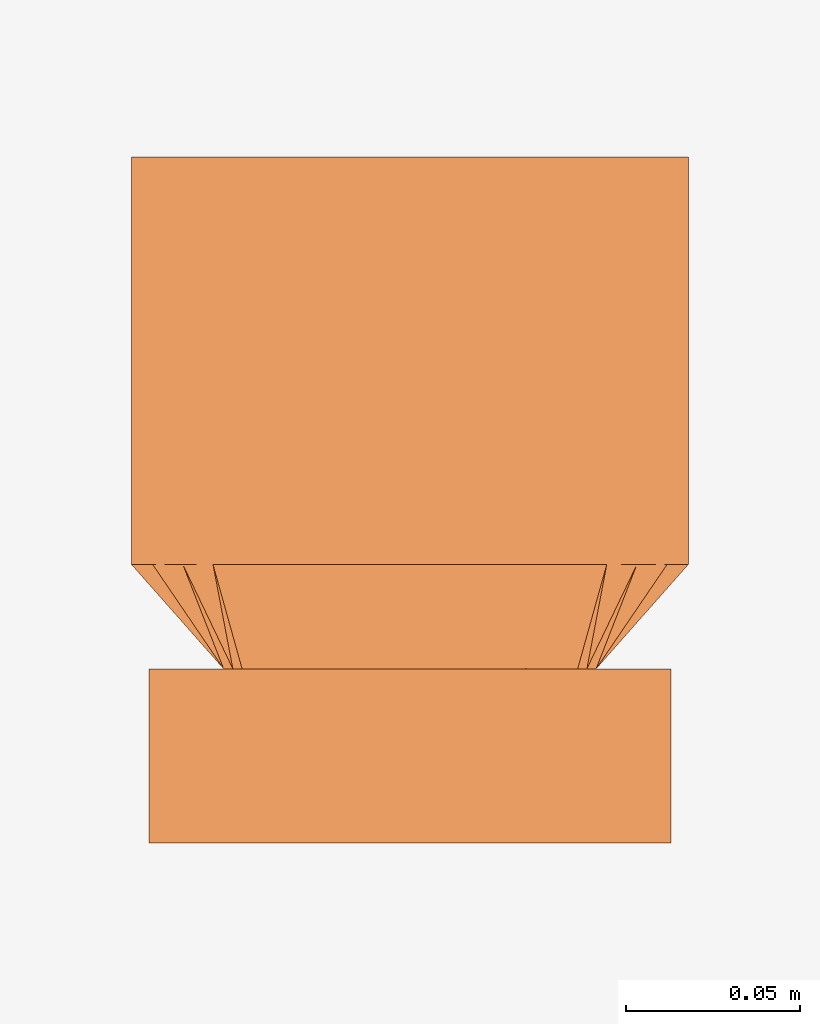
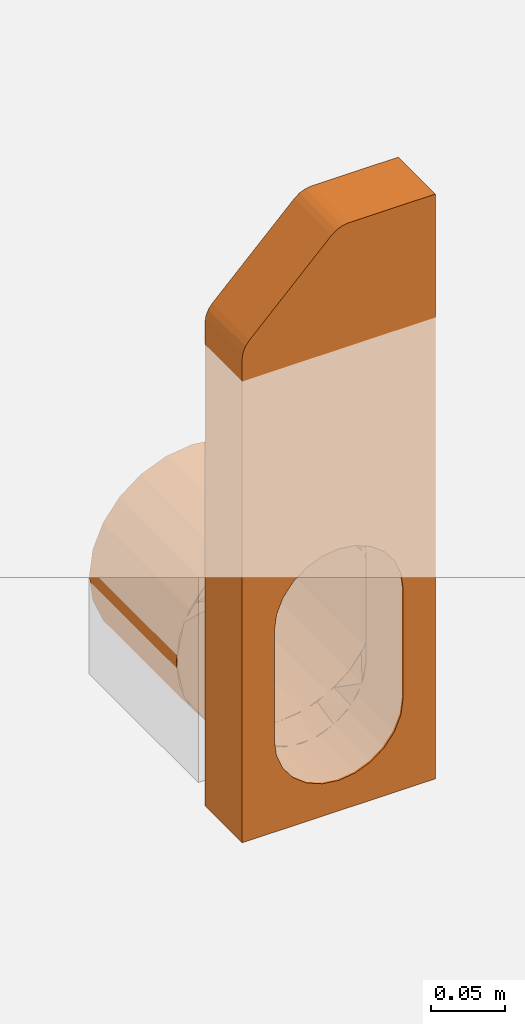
# One storey, part 2 of 2: 1 proxy.
"""IFC2X3 building model written with IfcOpenShell, lengths in millimetres."""

from ifc_helpers import new_model, entity, si_unit, converted_unit, direction, frame, origin, place, context, subcontext, project, spatial, faceted_brep, source, transform, mapped, material, material_list, element, save


model = new_model("IFC2X3")

# Units and contexts
model_context = context("Model", 3, precision=1e-06, world=origin(), true_north=direction((2.0, 6.12303176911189e-17, 1.0)))
context_of_model = context(None, 3, precision=1e-06, world=origin(), true_north=direction((2.0, 6.12303176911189e-17, 1.0)))
body_context = subcontext(model_context, "Body", "Model", "MODEL_VIEW")
ifc_project = project(units=[si_unit("LENGTHUNIT", "METRE", prefix="MILLI"), si_unit("AREAUNIT", "SQUARE_METRE", prefix="MILLI"), si_unit("VOLUMEUNIT", "CUBIC_METRE", prefix="MILLI"), converted_unit("PLANEANGLEUNIT", "DEGREE", entity("IfcRatioMeasure", 0.0174532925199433), si_unit("PLANEANGLEUNIT", "RADIAN"), dimensions=[0, 0, 0, 0, 0, 0, 0]), si_unit("TIMEUNIT", "SECOND")], contexts=[model_context, context_of_model])

# Site, building, storey
site_placement = place(None, origin())
site = spatial("IfcSite", under=ifc_project, at=site_placement, Name="Default", CompositionType="ELEMENT")
building_placement = place(site_placement, origin())
building = spatial("IfcBuilding", under=site, at=building_placement, CompositionType="ELEMENT")
storey_placement = place(building_placement, origin())
storey = spatial("IfcBuildingStorey", under=building, at=storey_placement, Name="Level 1", CompositionType="ELEMENT", Elevation=0.0)

# Proxy
ifc_material_1 = material(Name="Acetal Resin, Black")
ifc_material_2 = material(Name="ACO Polymer Concrete")
ifc_material_list = material_list([ifc_material_1, ifc_material_2])
shared_shape = source(origin(), body_context, "Body", "Brep", [
    faceted_brep([(30.5712097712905, 80.0, -204.605329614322), (43.5481437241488, 80.0, -213.276239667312), (42.4776251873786, 80.0, -214.920021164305), (29.2526989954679, 80.0, -207.848835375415), (-0.0434648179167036, 80.0, -198.515692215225), (15.2638724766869, 80.0, -201.560510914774), (14.9022478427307, 80.0, -203.493563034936), (-0.0222761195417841, 80.0, -202.021643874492), (56.5250776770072, 80.0, -221.947149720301), (54.0688428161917, 80.0, -224.435331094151), (73.8668977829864, 80.0, -247.901017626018), (77.698294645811, 80.0, -267.162750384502), (74.9998236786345, 80.0, -263.606946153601), (70.6484716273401, 80.0, -249.255702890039), (63.5809574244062, 80.0, -236.029072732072), (65.1959877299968, 80.0, -234.924083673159), (-30.6581394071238, 80.0, -204.605329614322), (-15.3508021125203, 80.0, -201.560510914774), (-14.947336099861, 80.0, -203.489728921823), (-29.2993446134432, 80.0, -207.841496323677), (-56.6120073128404, 80.0, -221.947149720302), (-43.6350733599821, 80.0, -213.276239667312), (-42.526701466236, 80.0, -214.909806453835), (-54.120989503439, 80.0, -224.423114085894), (-63.6365140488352, 80.0, -236.015891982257), (-70.7074354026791, 80.0, -249.242666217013), (-73.9538274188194, 80.0, -247.901017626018), (-65.2829173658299, 80.0, -234.92408367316), (-80.0434648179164, 80.0, -278.515692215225), (-77.7852242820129, 80.0, -267.162750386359), (-75.0618360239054, 80.0, -263.595124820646), (-75.9919576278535, 80.0, -273.037447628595), (79.9565351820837, 80.0, -278.515692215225), (76.4678184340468, 80.0, -278.521643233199), (75.9280251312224, 80.0, -273.037390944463), (74.9998236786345, 80.0, -293.436340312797), (75.9280251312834, 80.0, -284.005895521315), (77.6982946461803, 80.0, -289.868634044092), (73.8668977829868, 80.0, -309.130366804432), (70.6484716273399, 80.0, -307.78758357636), (63.580957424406, 80.0, -321.014213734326), (65.1959877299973, 80.0, -322.10730075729), (56.5250776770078, 80.0, -335.084234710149), (54.0688428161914, 80.0, -332.607955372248), (43.5481437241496, 80.0, -343.755144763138), (42.4776251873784, 80.0, -342.123265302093), (30.5712097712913, 80.0, -352.426054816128), (29.2526989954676, 80.0, -349.194451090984), (14.9022478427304, 80.0, -353.549723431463), (15.2638724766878, 80.0, -355.470873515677), (-0.0434648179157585, 80.0, -358.515692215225), (-0.0222761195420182, 80.0, -355.021642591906), (-56.6120073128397, 80.0, -335.084234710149), (-65.2829173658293, 80.0, -322.107300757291), (-63.6365140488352, 80.0, -321.027394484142), (-54.1209895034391, 80.0, -332.620172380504), (-73.953827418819, 80.0, -309.130366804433), (-70.7074354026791, 80.0, -307.800620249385), (-77.7852242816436, 80.0, -289.868634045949), (-75.0618360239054, 80.0, -293.448161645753), (-76.5321815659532, 80.0, -278.521643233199), (-75.9919576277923, 80.0, -284.005838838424), (-30.6581394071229, 80.0, -352.426054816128), (-29.2993446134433, 80.0, -349.201790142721), (-14.9473360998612, 80.0, -353.553557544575), (-15.3508021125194, 80.0, -355.470873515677), (-43.6350733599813, 80.0, -343.755144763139), (-42.5267014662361, 80.0, -342.133480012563), (-38.3531467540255, 50.0, -182.908235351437), (-25.0642807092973, 50.0, -171.742543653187), (-33.400169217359, 50.0, -173.187707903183), (-40.8227342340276, 50.0, -182.495310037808), (-11.9483347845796, 50.0, -162.857048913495), (-22.6742520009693, 50.0, -168.022378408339), (-8.72573637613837, 50.0, -165.786844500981), (11.861405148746, 50.0, -162.857048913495), (-0.0434648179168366, 50.0, -162.857048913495), (8.65550104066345, 50.0, -165.7858080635), (-53.5434648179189, 50.0, -215.015692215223), (-50.0321815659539, 50.0, -215.02526552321), (-47.0206008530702, 50.0, -197.93467007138), (-50.8943820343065, 50.0, -203.409302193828), (-53.5434648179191, 50.0, -305.015692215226), (-50.0321815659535, 50.0, -305.021643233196), (-48.2452992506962, 50.0, -191.802912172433), (24.9825720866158, 50.0, -171.732516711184), (22.5873223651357, 50.0, -168.022378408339), (33.3132395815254, 50.0, -173.187707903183), (38.2922467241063, 50.0, -182.912367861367), (46.9585488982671, 50.0, -197.941025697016), (48.1583696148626, 50.0, -191.802912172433), (40.7358045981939, 50.0, -182.495310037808), (53.4565351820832, 50.0, -215.015692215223), (50.8074523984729, 50.0, -203.409302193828), (49.9678184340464, 50.0, -215.025265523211), (53.4565351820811, 50.0, -305.015692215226), (49.9678184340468, 50.0, -305.021643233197), (-47.0155679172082, 50.0, -322.126069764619), (-50.8943820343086, 50.0, -316.62208223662), (-38.3283265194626, 50.0, -337.16826485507), (-48.2452992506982, 50.0, -328.228472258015), (-40.8227342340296, 50.0, -337.53607439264), (-25.0289620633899, 50.0, -348.324772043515), (-33.4001692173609, 50.0, -346.843676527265), (-22.6742520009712, 50.0, -352.009006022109), (-11.9483347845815, 50.0, -357.174335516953), (-8.71184032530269, 50.0, -354.262515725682), (-0.0434648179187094, 50.0, -357.174335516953), (11.8614051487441, 50.0, -357.174335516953), (48.1583696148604, 50.0, -328.228472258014), (50.8074523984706, 50.0, -316.62208223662), (46.9552727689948, 50.0, -322.114891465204), (38.2769468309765, 50.0, -337.152791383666), (24.9833861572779, 50.0, -348.313921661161), (8.65760674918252, 50.0, -354.260729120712), (22.5873223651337, 50.0, -352.009006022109), (33.3132395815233, 50.0, -346.843676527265), (40.7358045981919, 50.0, -337.53607439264), (-67.099904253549, 65.3469125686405, -247.499990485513), (-73.5716845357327, 72.6734562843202, -263.007841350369), (67.0129746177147, 65.3469125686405, -291.459252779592), (73.4847548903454, 72.673456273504, -263.007841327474), (67.0129745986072, 65.346912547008, -247.499990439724), (64.0507575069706, 65.9429498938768, -290.938704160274), (57.0092879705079, 57.9714749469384, -297.980173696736), (-73.4279163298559, 76.4857374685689, -281.625908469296), (-70.3236510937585, 72.9714749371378, -284.730173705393), (-64.1151206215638, 65.9429498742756, -290.938704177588), (70.2592879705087, 72.9714749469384, -284.730173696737), (-57.0736510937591, 57.9714749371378, -297.980173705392), (73.3635532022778, 76.4857374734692, -281.625908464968), (-64.1151206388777, 65.9429498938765, -248.769251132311), (-57.0736511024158, 57.9714749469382, -231.897258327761), (73.3635531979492, 76.4857374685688, -271.083545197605), (70.2592879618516, 72.9714749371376, -263.645447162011), (64.0507574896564, 65.9429498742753, -248.769251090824), (-70.3236511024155, 72.9714749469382, -263.645447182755), (57.0092879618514, 57.9714749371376, -231.897258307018), (-73.4279163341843, 76.4857374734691, -271.083545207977), (73.4847548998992, 72.6734562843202, -284.987472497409), (-73.5716845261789, 72.673456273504, -284.987472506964), (-67.0999042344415, 65.3469125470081, -291.459252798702)], [[[0, 1, 2, 3]], [[4, 5, 6, 7]], [[0, 3, 6, 5]], [[8, 9, 2, 1]], [[10, 11, 12, 13]], [[14, 9, 8, 15]], [[10, 13, 14, 15]], [[16, 17, 18, 19]], [[20, 21, 22, 23]], [[16, 19, 22, 21]], [[4, 7, 18, 17]], [[24, 25, 26, 27]], [[28, 29, 30, 31]], [[26, 25, 30, 29]], [[20, 23, 24, 27]], [[32, 33, 34, 12]], [[35, 36, 32, 37]], [[38, 39, 35, 37]], [[40, 39, 38, 41]], [[42, 43, 40, 41]], [[42, 44, 45, 43]], [[46, 47, 45, 44]], [[48, 47, 46, 49]], [[50, 51, 48, 49]], [[52, 53, 54, 55]], [[56, 57, 54, 53]], [[56, 58, 59, 57]], [[28, 60, 61, 59]], [[62, 63, 64, 65]], [[50, 65, 64, 51]], [[62, 66, 67, 63]], [[52, 55, 67, 66]], [[68, 69, 70, 71]], [[72, 73, 69, 74]], [[75, 76, 74, 77]], [[78, 79, 80, 81]], [[79, 78, 82, 83]], [[80, 68, 84, 81]], [[75, 77, 85, 86]], [[87, 86, 85, 88]], [[88, 89, 90, 91]], [[92, 93, 89, 94]], [[95, 92, 94, 96]], [[97, 83, 82, 98]], [[99, 97, 100, 101]], [[102, 99, 103, 104]], [[105, 106, 102, 104]], [[106, 105, 107, 108]], [[109, 110, 111, 112]], [[95, 96, 111, 110]], [[113, 114, 108, 115]], [[108, 114, 106]], [[112, 113, 116, 117]], [[82, 78, 118, 119]], [[95, 120, 121, 122]], [[96, 40, 111]], [[111, 45, 112]], [[48, 114, 113]], [[51, 114, 48]], [[47, 113, 112]], [[47, 48, 113]], [[123, 35, 39]], [[96, 124, 40]], [[61, 60, 125, 126]], [[111, 43, 45]], [[43, 111, 40]], [[39, 40, 124]], [[112, 45, 47]], [[126, 127, 59, 61]], [[64, 106, 51]], [[114, 51, 106]], [[102, 106, 64]], [[35, 123, 128, 36]], [[67, 97, 99]], [[99, 102, 63]], [[57, 127, 129]], [[63, 102, 64]], [[124, 123, 39]], [[83, 97, 54]], [[63, 67, 99]], [[67, 55, 97]], [[36, 128, 130, 33]], [[83, 54, 129]], [[55, 54, 97]], [[57, 129, 54]], [[59, 127, 57]], [[79, 24, 80]], [[80, 22, 68]], [[18, 74, 69]], [[7, 74, 18]], [[19, 69, 68]], [[19, 18, 69]], [[131, 30, 25]], [[79, 132, 24]], [[34, 33, 133, 134]], [[80, 23, 22]], [[23, 80, 24]], [[25, 24, 132]], [[68, 22, 19]], [[134, 135, 12, 34]], [[6, 77, 7]], [[74, 7, 77]], [[85, 77, 6]], [[30, 131, 136, 31]], [[2, 89, 88]], [[88, 85, 3]], [[3, 85, 6]], [[94, 14, 137]], [[94, 89, 14]], [[3, 2, 88]], [[2, 9, 89]], [[31, 136, 138, 60]], [[13, 135, 137]], [[9, 14, 89]], [[132, 131, 25]], [[13, 137, 14]], [[12, 135, 13]], [[96, 94, 137, 135]], [[83, 129, 138, 136]], [[41, 110, 42]], [[103, 66, 62]], [[44, 109, 117, 116]], [[37, 32, 139, 120]], [[46, 116, 115]], [[108, 49, 115]], [[104, 103, 62]], [[120, 95, 38, 37]], [[140, 28, 58, 141]], [[110, 41, 95]], [[110, 109, 42]], [[50, 108, 107, 105]], [[108, 50, 49]], [[66, 100, 52]], [[101, 100, 66, 103]], [[95, 41, 38]], [[82, 53, 98]], [[56, 82, 141, 58]], [[82, 56, 53]], [[100, 98, 52]], [[109, 44, 42]], [[44, 116, 46]], [[46, 115, 49]], [[104, 65, 105]], [[52, 98, 53]], [[65, 104, 62]], [[65, 50, 105]], [[27, 81, 20]], [[87, 1, 0]], [[21, 84, 71, 70]], [[29, 28, 119, 118]], [[16, 70, 73]], [[72, 17, 73]], [[86, 87, 0]], [[118, 78, 26, 29]], [[121, 32, 11, 122]], [[81, 27, 78]], [[81, 84, 20]], [[4, 72, 76, 75]], [[72, 4, 17]], [[1, 90, 8]], [[91, 90, 1, 87]], [[78, 27, 26]], [[92, 15, 93]], [[10, 92, 122, 11]], [[92, 10, 15]], [[90, 93, 8]], [[84, 21, 20]], [[21, 70, 16]], [[16, 73, 17]], [[86, 5, 75]], [[8, 93, 15]], [[5, 86, 0]], [[5, 4, 75]], [[12, 11, 32]], [[28, 31, 60]], [[32, 36, 33]], [[59, 58, 28]], [[69, 73, 70]], [[74, 76, 72]], [[68, 71, 84]], [[89, 93, 90]], [[88, 91, 87]], [[97, 98, 100]], [[99, 101, 103]], [[113, 115, 116]], [[112, 117, 109]], [[119, 28, 140, 141]], [[119, 141, 82]], [[95, 122, 92]], [[121, 120, 139, 32]], [[96, 135, 134, 133]], [[133, 33, 130, 128]], [[133, 128, 123, 124]], [[133, 124, 96]], [[83, 136, 131, 132]], [[83, 132, 79]], [[138, 129, 127, 126]], [[138, 126, 125, 60]]]),
    faceted_brep([(-74.352590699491, 50.0, 22.0475041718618), (-72.454482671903, 50.0, 26.6299423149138), (-69.4350288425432, 50.0, 30.5649711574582), (-75.0, 50.0, 17.1299423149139), (75.0, 50.0, 100.0), (-5.56497115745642, 50.0, 94.4350288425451), (-12.9613558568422, 50.0, -166.669406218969), (-25.0204036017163, 50.0, -171.6644273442), (-43.3216737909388, 50.0, -189.965697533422), (-35.3757426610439, 50.0, -179.610358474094), (-0.0204036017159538, 50.0, -164.965697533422), (-48.3166949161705, 50.0, -202.024745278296), (-50.0204036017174, 50.0, -214.965697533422), (-50.0204036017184, 50.0, -304.965697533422), (-75.0, 50.0, -380.0), (-48.3166949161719, 50.0, -317.906649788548), (-43.3216737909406, 50.0, -329.965697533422), (-25.020403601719, 50.0, -348.266967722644), (-12.9613558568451, 50.0, -353.261988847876), (-35.3757426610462, 50.0, -340.32103659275), (-0.0204036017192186, 50.0, -354.965697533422), (-1.62994231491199, 50.0, 97.4544826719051), (2.95249582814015, 50.0, 99.352590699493), (7.87005768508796, 50.0, 100.0), (12.9205486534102, 50.0, -166.669406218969), (24.9795963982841, 50.0, -171.664427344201), (35.3349354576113, 50.0, -179.610358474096), (43.2808665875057, 50.0, -189.965697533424), (48.2758877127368, 50.0, -202.024745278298), (35.3349354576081, 50.0, -340.321036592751), (43.2808665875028, 50.0, -329.965697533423), (75.0, 50.0, -380.0), (12.9205486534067, 50.0, -353.261988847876), (24.9795963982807, 50.0, -348.266967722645), (49.979596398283, 50.0, -214.965697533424), (48.2758877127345, 50.0, -317.90664978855), (49.9795963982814, 50.0, -304.965697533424), (75.0, 0.0, 100.0), (35.3349354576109, 0.0, -179.610358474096), (43.2808665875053, 0.0, -189.965697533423), (24.9795963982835, 0.0, -171.664427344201), (48.2758877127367, 0.0, -202.024745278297), (49.9795963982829, 0.0, -214.965697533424), (7.87005768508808, 0.0, 100.0), (-5.56497115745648, 0.0, 94.4350288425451), (-69.4350288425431, 0.0, 30.5649711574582), (12.9205486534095, 0.0, -166.669406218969), (-75.0, 0.0, 17.1299423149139), (-0.0204036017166, 0.0, -164.965697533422), (2.95249582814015, 0.0, 99.352590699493), (-1.62994231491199, 0.0, 97.4544826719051), (49.9795963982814, 0.0, -304.965697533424), (75.0, 0.0, -380.0), (48.2758877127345, 0.0, -317.90664978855), (43.2808665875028, 0.0, -329.965697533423), (35.3349354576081, 0.0, -340.321036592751), (12.9205486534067, 0.0, -353.261988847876), (-0.0204036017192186, 0.0, -354.965697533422), (-75.0, 0.0, -380.0), (24.9795963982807, 0.0, -348.266967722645), (-25.0204036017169, 0.0, -171.6644273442), (-12.9613558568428, 0.0, -166.669406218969), (-72.454482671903, 0.0, 26.6299423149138), (-74.352590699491, 0.0, 22.0475041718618), (-35.3757426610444, 0.0, -179.610358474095), (-43.3216737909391, 0.0, -189.965697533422), (-25.020403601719, 0.0, -348.266967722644), (-35.3757426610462, 0.0, -340.32103659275), (-12.9613558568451, 0.0, -353.261988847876), (-43.3216737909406, 0.0, -329.965697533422), (-50.0204036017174, 0.0, -214.965697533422), (-48.3166949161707, 0.0, -202.024745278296), (-48.3166949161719, 0.0, -317.906649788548), (-50.0204036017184, 0.0, -304.965697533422)], [[[0, 1, 2, 3]], [[4, 3, 2, 5]], [[6, 7, 3]], [[8, 3, 9]], [[9, 3, 7]], [[3, 10, 6]], [[3, 8, 11]], [[12, 13, 14, 3]], [[14, 15, 16]], [[15, 14, 13]], [[17, 18, 14]], [[19, 17, 14]], [[16, 19, 14]], [[3, 11, 12]], [[14, 18, 20]], [[21, 22, 23, 5]], [[24, 10, 3, 4]], [[4, 5, 23]], [[24, 4, 25]], [[26, 25, 4]], [[27, 26, 4]], [[4, 28, 27]], [[29, 30, 31]], [[32, 33, 31]], [[20, 32, 31, 14]], [[29, 31, 33]], [[34, 28, 4, 31]], [[35, 36, 31]], [[31, 36, 34]], [[35, 31, 30]], [[37, 38, 39]], [[38, 37, 40]], [[39, 41, 37]], [[37, 41, 42]], [[37, 43, 44, 45]], [[40, 37, 46]], [[47, 48, 46, 37]], [[43, 49, 50, 44]], [[42, 51, 52, 37]], [[52, 53, 54]], [[53, 52, 51]], [[54, 55, 52]], [[52, 56, 57, 58]], [[59, 56, 52]], [[55, 59, 52]], [[47, 60, 61]], [[48, 47, 61]], [[45, 62, 63, 47]], [[47, 64, 60]], [[64, 47, 65]], [[37, 45, 47]], [[66, 67, 58]], [[68, 66, 58]], [[69, 58, 67]], [[70, 71, 47, 58]], [[72, 73, 58]], [[58, 73, 70]], [[72, 58, 69]], [[65, 47, 71]], [[68, 58, 57]], [[37, 52, 31, 4]], [[52, 58, 14, 31]], [[14, 58, 47, 3]], [[23, 43, 37, 4]], [[34, 36, 51, 42]], [[11, 71, 70, 12]], [[8, 65, 71, 11]], [[48, 61, 6, 10]], [[9, 64, 65, 8]], [[9, 7, 60, 64]], [[61, 60, 7, 6]], [[40, 46, 24, 25]], [[38, 40, 25, 26]], [[41, 39, 27, 28]], [[39, 38, 26, 27]], [[42, 41, 28, 34]], [[10, 24, 46, 48]], [[13, 12, 70, 73]], [[35, 53, 51, 36]], [[30, 54, 53, 35]], [[29, 55, 54, 30]], [[33, 59, 55, 29]], [[56, 32, 20, 57]], [[59, 33, 32, 56]], [[66, 68, 18, 17]], [[67, 66, 17, 19]], [[72, 69, 16, 15]], [[69, 67, 19, 16]], [[73, 72, 15, 13]], [[20, 18, 68, 57]], [[43, 23, 22, 49]], [[49, 22, 21, 50]], [[50, 21, 5, 44]], [[2, 45, 44, 5]], [[45, 2, 1, 62]], [[62, 1, 0, 63]], [[63, 0, 3, 47]]]),
    faceted_brep([(38.2500000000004, 80.0, -344.747113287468), (40.0, 80.0, -347.878202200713), (56.5685424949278, 80.0, -335.164712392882), (54.0936687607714, 80.0, -332.589838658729), (19.7996569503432, 80.0, -352.389495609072), (20.7055236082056, 80.0, -355.870236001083), (0.0, 80.0, -354.996169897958), (0.0, 80.0, -358.596169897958), (73.8933257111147, 80.0, -298.295826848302), (77.2740661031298, 80.0, -299.30169350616), (80.0, 80.0, -278.596169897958), (76.5000000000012, 80.0, -278.496169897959), (66.2509433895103, 80.0, -316.746169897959), (69.2820323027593, 80.0, -318.596169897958), (-20.7055236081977, 80.0, -355.870236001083), (-19.7996569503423, 80.0, -352.389495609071), (-40.0, 80.0, -347.878202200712), (-38.2499999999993, 80.0, -344.747113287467), (-56.5685424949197, 80.0, -335.164712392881), (-54.0936687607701, 80.0, -332.589838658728), (-66.2509433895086, 80.0, -316.746169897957), (-69.2820323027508, 80.0, -318.596169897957), (-77.2740661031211, 80.0, -299.301693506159), (-73.8933257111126, 80.0, -298.2958268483), (-80.0, 80.0, -278.596169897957), (-76.4999999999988, 80.0, -278.496169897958), (77.2740661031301, 80.0, -257.890646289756), (73.8933257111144, 80.0, -258.696512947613), (69.2820323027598, 80.0, -238.596169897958), (66.2509433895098, 80.0, -240.246169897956), (56.5685424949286, 80.0, -222.027627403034), (54.0936687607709, 80.0, -224.402501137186), (40.0, 80.0, -209.314137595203), (38.2499999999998, 80.0, -212.245226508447), (20.7055236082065, 80.0, -201.322103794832), (19.7996569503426, 80.0, -204.602844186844), (0.0, 80.0, -198.596169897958), (0.0, 80.0, -201.996169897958), (-56.5685424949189, 80.0, -222.027627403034), (-69.2820323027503, 80.0, -238.596169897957), (-66.2509433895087, 80.0, -240.246169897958), (-54.0936687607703, 80.0, -224.402501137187), (-73.8933257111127, 80.0, -258.696512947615), (-77.2740661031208, 80.0, -257.890646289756), (-20.7055236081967, 80.0, -201.322103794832), (-19.7996569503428, 80.0, -204.602844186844), (-38.2499999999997, 80.0, -212.245226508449), (-40.0, 80.0, -209.314137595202), (54.0936687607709, 197.0, -224.402501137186), (38.2499999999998, 197.0, -212.245226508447), (40.0, 197.0, -209.314137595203), (56.5685424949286, 197.0, -222.027627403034), (20.7055236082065, 197.0, -201.322103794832), (19.7996569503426, 197.0, -204.602844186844), (0.0, 197.0, -198.596169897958), (0.0, 197.0, -201.996169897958), (76.5000000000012, 197.0, -278.496169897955), (73.8933257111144, 197.0, -258.696512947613), (77.2740661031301, 197.0, -257.890646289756), (80.0, 197.0, -278.596169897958), (69.2820323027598, 197.0, -238.596169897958), (66.2509433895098, 197.0, -240.246169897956), (-19.7996569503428, 197.0, -204.602844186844), (-20.7055236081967, 197.0, -201.322103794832), (-38.2499999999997, 197.0, -212.245226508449), (-40.0, 197.0, -209.314137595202), (-54.0936687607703, 197.0, -224.402501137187), (-56.5685424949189, 197.0, -222.027627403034), (-66.2509433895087, 197.0, -240.246169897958), (-69.2820323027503, 197.0, -238.596169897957), (-73.8933257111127, 197.0, -258.696512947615), (-77.2740661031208, 197.0, -257.890646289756), (-76.4999999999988, 197.0, -278.496169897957), (-80.0, 197.0, -278.596169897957), (77.2740661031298, 197.0, -299.30169350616), (73.8933257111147, 197.0, -298.295826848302), (66.2509433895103, 197.0, -316.746169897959), (69.2820323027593, 197.0, -318.596169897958), (54.0936687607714, 197.0, -332.589838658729), (56.5685424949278, 197.0, -335.164712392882), (40.0, 197.0, -347.878202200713), (38.2500000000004, 197.0, -344.747113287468), (19.7996569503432, 197.0, -352.389495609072), (20.7055236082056, 197.0, -355.870236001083), (0.0, 197.0, -354.996169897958), (0.0, 197.0, -358.596169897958), (-69.2820323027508, 197.0, -318.596169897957), (-66.2509433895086, 197.0, -316.746169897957), (-54.0936687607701, 197.0, -332.589838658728), (-56.5685424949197, 197.0, -335.164712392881), (-77.2740661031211, 197.0, -299.301693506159), (-73.8933257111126, 197.0, -298.2958268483), (-20.7055236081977, 197.0, -355.870236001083), (-19.7996569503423, 197.0, -352.389495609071), (-40.0, 197.0, -347.878202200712), (-38.2499999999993, 197.0, -344.747113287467)], [[[0, 1, 2, 3]], [[1, 0, 4, 5]], [[5, 4, 6, 7]], [[8, 9, 10, 11]], [[9, 8, 12, 13]], [[13, 12, 3, 2]], [[14, 7, 6, 15]], [[16, 14, 15, 17]], [[18, 16, 17, 19]], [[19, 20, 21, 18]], [[22, 21, 20, 23]], [[24, 22, 23, 25]], [[26, 27, 11, 10]], [[27, 26, 28, 29]], [[30, 31, 29, 28]], [[32, 33, 31, 30]], [[33, 32, 34, 35]], [[36, 37, 35, 34]], [[38, 39, 40, 41]], [[42, 40, 39, 43]], [[25, 42, 43, 24]], [[36, 44, 45, 37]], [[46, 45, 44, 47]], [[47, 38, 41, 46]], [[48, 49, 50, 51]], [[52, 50, 49, 53]], [[54, 52, 53, 55]], [[56, 57, 58, 59]], [[60, 58, 57, 61]], [[61, 48, 51, 60]], [[62, 63, 54, 55]], [[63, 62, 64, 65]], [[66, 67, 65, 64]], [[68, 69, 67, 66]], [[69, 68, 70, 71]], [[71, 70, 72, 73]], [[59, 74, 75, 56]], [[76, 75, 74, 77]], [[78, 76, 77, 79]], [[79, 80, 81, 78]], [[82, 81, 80, 83]], [[84, 82, 83, 85]], [[86, 87, 88, 89]], [[87, 86, 90, 91]], [[91, 90, 73, 72]], [[92, 93, 84, 85]], [[93, 92, 94, 95]], [[95, 94, 89, 88]], [[71, 43, 39, 69]], [[69, 39, 38, 67]], [[65, 47, 44, 63]], [[67, 38, 47, 65]], [[63, 44, 36, 54]], [[73, 24, 43, 71]], [[52, 34, 32, 50]], [[50, 32, 30, 51]], [[60, 28, 26, 58]], [[51, 30, 28, 60]], [[58, 26, 10, 59]], [[34, 52, 54, 36]], [[74, 9, 13, 77]], [[77, 13, 2, 79]], [[80, 1, 5, 83]], [[79, 2, 1, 80]], [[83, 5, 7, 85]], [[59, 10, 9, 74]], [[92, 14, 16, 94]], [[94, 16, 18, 89]], [[86, 21, 22, 90]], [[89, 18, 21, 86]], [[90, 22, 24, 73]], [[14, 92, 85, 7]], [[57, 56, 11, 27]], [[61, 57, 27, 29]], [[33, 49, 48, 31]], [[35, 53, 49, 33]], [[31, 48, 61, 29]], [[53, 35, 37, 55]], [[46, 64, 62, 45]], [[41, 66, 64, 46]], [[42, 70, 68, 40]], [[40, 68, 66, 41]], [[25, 72, 70, 42]], [[45, 62, 55, 37]], [[23, 91, 72, 25]], [[20, 87, 91, 23]], [[17, 95, 88, 19]], [[19, 88, 87, 20]], [[15, 93, 95, 17]], [[93, 15, 6, 84]], [[0, 81, 82, 4]], [[3, 78, 81, 0]], [[8, 75, 76, 12]], [[12, 76, 78, 3]], [[11, 56, 75, 8]], [[4, 82, 84, 6]]]),
])
proxy_placement = place(storey_placement, frame((-9994.86998757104, -538.640450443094, 0.0)))
element("IfcBuildingElementProxy", 1, at=proxy_placement, inside=storey, material=ifc_material_list, Name="Civil-Drainage-Channel-ACO-KerbDrain-SP480:4962 - LH Inlet/Outlet End cap:4962 - LH Inlet/Outlet End cap", ObjectType="4962 - LH Inlet/Outlet End cap", CompositionType="ELEMENT", context=body_context, shape_type="MappedRepresentation", body=[
    mapped(shared_shape, transform((0.0, 0.0, 0.0), scale=1.0)),
])

save(model, "model.ifc")
